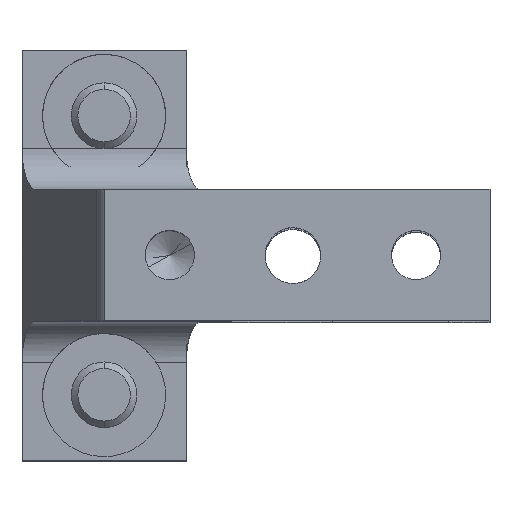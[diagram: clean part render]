
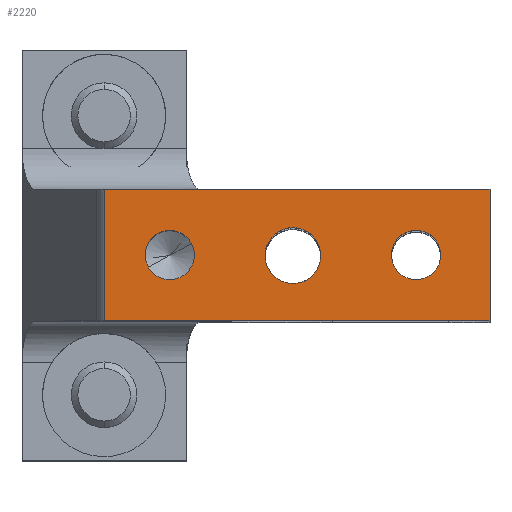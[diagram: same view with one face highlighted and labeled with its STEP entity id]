
A CAD part, top view. The second image highlights one B-rep face of the part: STEP entity #2220.
In plain terms, the highlighted planar face has unit normal (0, 0, 1).
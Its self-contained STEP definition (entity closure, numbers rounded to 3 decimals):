
#2025=CARTESIAN_POINT('Vertex',(39.,-8.,138.)) ;
#2028=CARTESIAN_POINT('Line Origine',(15.5,-8.,138.)) ;
#2032=CARTESIAN_POINT('Vertex',(-8.,-8.,138.)) ;
#2136=CARTESIAN_POINT('Axis2P3D Location',(39.,0.,138.)) ;
#2141=CARTESIAN_POINT('Line Origine',(39.,0.,138.)) ;
#2145=CARTESIAN_POINT('Vertex',(39.,8.,138.)) ;
#2148=CARTESIAN_POINT('Line Origine',(15.5,8.,138.)) ;
#2152=CARTESIAN_POINT('Vertex',(-8.,8.,138.)) ;
#2155=CARTESIAN_POINT('Line Origine',(-8.,0.,138.)) ;
#2166=CARTESIAN_POINT('Axis2P3D Location',(15.,-0.07,138.)) ;
#2170=CARTESIAN_POINT('Vertex',(17.984,1.561,138.)) ;
#2172=CARTESIAN_POINT('Vertex',(12.016,-1.7,138.)) ;
#2175=CARTESIAN_POINT('Axis2P3D Location',(15.,-0.07,138.)) ;
#2184=CARTESIAN_POINT('Axis2P3D Location',(30.,0.,138.)) ;
#2188=CARTESIAN_POINT('Vertex',(27.367,-1.438,138.)) ;
#2190=CARTESIAN_POINT('Vertex',(32.633,1.438,138.)) ;
#2193=CARTESIAN_POINT('Axis2P3D Location',(30.,0.,138.)) ;
#2202=CARTESIAN_POINT('Axis2P3D Location',(0.,0.,138.)) ;
#2206=CARTESIAN_POINT('Vertex',(2.633,1.438,138.)) ;
#2208=CARTESIAN_POINT('Vertex',(-2.633,-1.438,138.)) ;
#2211=CARTESIAN_POINT('Axis2P3D Location',(0.,0.,138.)) ;
#2029=DIRECTION('Vector Direction',(1.,0.,0.)) ;
#2137=DIRECTION('Axis2P3D Direction',(0.,0.,-1.)) ;
#2138=DIRECTION('Axis2P3D XDirection',(-1.,0.,0.)) ;
#2142=DIRECTION('Vector Direction',(0.,1.,0.)) ;
#2149=DIRECTION('Vector Direction',(1.,0.,0.)) ;
#2156=DIRECTION('Vector Direction',(0.,1.,0.)) ;
#2167=DIRECTION('Axis2P3D Direction',(0.,0.,-1.)) ;
#2176=DIRECTION('Axis2P3D Direction',(0.,0.,-1.)) ;
#2185=DIRECTION('Axis2P3D Direction',(0.,0.,-1.)) ;
#2194=DIRECTION('Axis2P3D Direction',(0.,0.,-1.)) ;
#2203=DIRECTION('Axis2P3D Direction',(0.,0.,-1.)) ;
#2212=DIRECTION('Axis2P3D Direction',(0.,0.,-1.)) ;
#2139=AXIS2_PLACEMENT_3D('Plane Axis2P3D',#2136,#2137,#2138) ;
#2168=AXIS2_PLACEMENT_3D('Circle Axis2P3D',#2166,#2167,$) ;
#2177=AXIS2_PLACEMENT_3D('Circle Axis2P3D',#2175,#2176,$) ;
#2186=AXIS2_PLACEMENT_3D('Circle Axis2P3D',#2184,#2185,$) ;
#2195=AXIS2_PLACEMENT_3D('Circle Axis2P3D',#2193,#2194,$) ;
#2204=AXIS2_PLACEMENT_3D('Circle Axis2P3D',#2202,#2203,$) ;
#2213=AXIS2_PLACEMENT_3D('Circle Axis2P3D',#2211,#2212,$) ;
#2161=ORIENTED_EDGE('',*,*,#2147,.T.) ;
#2162=ORIENTED_EDGE('',*,*,#2154,.F.) ;
#2163=ORIENTED_EDGE('',*,*,#2159,.F.) ;
#2164=ORIENTED_EDGE('',*,*,#2034,.T.) ;
#2181=ORIENTED_EDGE('',*,*,#2174,.T.) ;
#2182=ORIENTED_EDGE('',*,*,#2179,.T.) ;
#2199=ORIENTED_EDGE('',*,*,#2192,.T.) ;
#2200=ORIENTED_EDGE('',*,*,#2197,.T.) ;
#2217=ORIENTED_EDGE('',*,*,#2210,.T.) ;
#2218=ORIENTED_EDGE('',*,*,#2215,.T.) ;
#2183=FACE_BOUND('',#2180,.T.) ;
#2201=FACE_BOUND('',#2198,.T.) ;
#2219=FACE_BOUND('',#2216,.T.) ;
#2030=VECTOR('Line Direction',#2029,1.) ;
#2143=VECTOR('Line Direction',#2142,1.) ;
#2150=VECTOR('Line Direction',#2149,1.) ;
#2157=VECTOR('Line Direction',#2156,1.) ;
#2220=ADVANCED_FACE('\X2\51E04F554F53\X0\.9',(#2165,#2183,#2201,#2219),#2140,.F.) ;
#2169=CIRCLE('generated circle',#2168,3.4) ;
#2178=CIRCLE('generated circle',#2177,3.4) ;
#2187=CIRCLE('generated circle',#2186,3.) ;
#2196=CIRCLE('generated circle',#2195,3.) ;
#2205=CIRCLE('generated circle',#2204,3.) ;
#2214=CIRCLE('generated circle',#2213,3.) ;
#2034=EDGE_CURVE('',#2033,#2026,#2031,.T.) ;
#2147=EDGE_CURVE('',#2026,#2146,#2144,.T.) ;
#2154=EDGE_CURVE('',#2153,#2146,#2151,.T.) ;
#2159=EDGE_CURVE('',#2033,#2153,#2158,.T.) ;
#2174=EDGE_CURVE('',#2171,#2173,#2169,.T.) ;
#2179=EDGE_CURVE('',#2173,#2171,#2178,.T.) ;
#2192=EDGE_CURVE('',#2189,#2191,#2187,.T.) ;
#2197=EDGE_CURVE('',#2191,#2189,#2196,.T.) ;
#2210=EDGE_CURVE('',#2207,#2209,#2205,.T.) ;
#2215=EDGE_CURVE('',#2209,#2207,#2214,.T.) ;
#2160=EDGE_LOOP('',(#2161,#2162,#2163,#2164)) ;
#2180=EDGE_LOOP('',(#2181,#2182)) ;
#2198=EDGE_LOOP('',(#2199,#2200)) ;
#2216=EDGE_LOOP('',(#2217,#2218)) ;
#2165=FACE_OUTER_BOUND('',#2160,.T.) ;
#2031=LINE('Line',#2028,#2030) ;
#2144=LINE('Line',#2141,#2143) ;
#2151=LINE('Line',#2148,#2150) ;
#2158=LINE('Line',#2155,#2157) ;
#2140=PLANE('',#2139) ;
#2026=VERTEX_POINT('',#2025) ;
#2033=VERTEX_POINT('',#2032) ;
#2146=VERTEX_POINT('',#2145) ;
#2153=VERTEX_POINT('',#2152) ;
#2171=VERTEX_POINT('',#2170) ;
#2173=VERTEX_POINT('',#2172) ;
#2189=VERTEX_POINT('',#2188) ;
#2191=VERTEX_POINT('',#2190) ;
#2207=VERTEX_POINT('',#2206) ;
#2209=VERTEX_POINT('',#2208) ;
